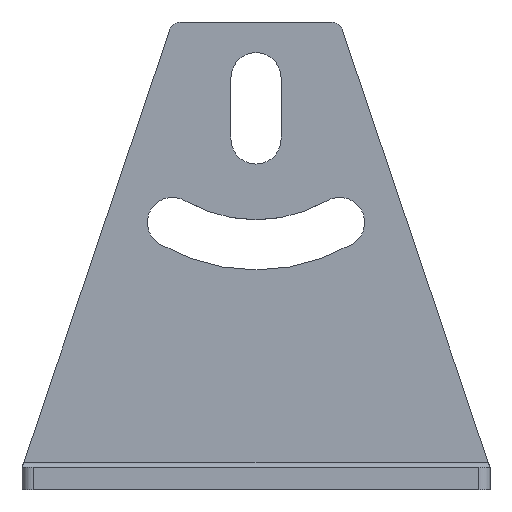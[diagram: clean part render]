
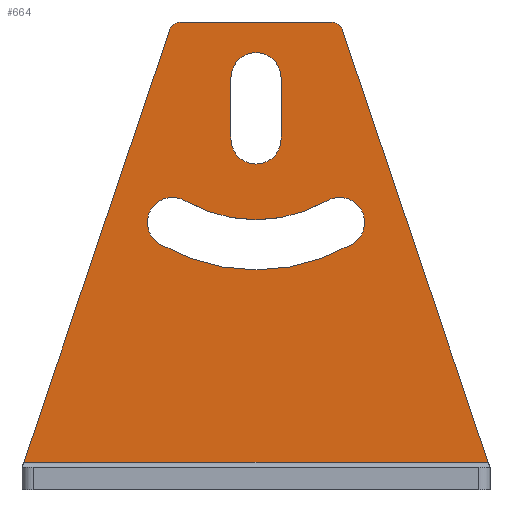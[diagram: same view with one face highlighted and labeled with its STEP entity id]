
A CAD part, top view. The second image highlights one B-rep face of the part: STEP entity #664.
In plain terms, the highlighted planar face has unit normal (0, 0, 1).
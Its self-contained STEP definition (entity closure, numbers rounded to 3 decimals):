
#2 = CARTESIAN_POINT ( 'NONE',  ( -4.5, 63., 4. ) ) ;
#21 = EDGE_LOOP ( 'NONE', ( #943, #1037, #274, #352, #300, #64 ) ) ;
#34 = VERTEX_POINT ( 'NONE', #616 ) ;
#35 = CARTESIAN_POINT ( 'NONE',  ( -15.459, 82.64, 4. ) ) ;
#38 = DIRECTION ( 'NONE',  ( 0., 0., 1. ) ) ;
#39 = EDGE_CURVE ( 'NONE', #756, #130, #1024, .T. ) ;
#46 = CARTESIAN_POINT ( 'NONE',  ( 19.5, 48.019, 4. ) ) ;
#63 = EDGE_CURVE ( 'NONE', #982, #452, #210, .T. ) ;
#64 = ORIENTED_EDGE ( 'NONE', *, *, #129, .F. ) ;
#66 = DIRECTION ( 'NONE',  ( 0., 0., 1. ) ) ;
#73 = VERTEX_POINT ( 'NONE', #46 ) ;
#75 = VECTOR ( 'NONE', #1023, 1000. ) ;
#86 = VERTEX_POINT ( 'NONE', #917 ) ;
#119 = ORIENTED_EDGE ( 'NONE', *, *, #252, .F. ) ;
#129 = EDGE_CURVE ( 'NONE', #246, #756, #557, .T. ) ;
#130 = VERTEX_POINT ( 'NONE', #35 ) ;
#131 = VECTOR ( 'NONE', #527, 1000. ) ;
#138 = LINE ( 'NONE', #721, #192 ) ;
#143 = CARTESIAN_POINT ( 'NONE',  ( -13.564, 84., 4. ) ) ;
#145 = CARTESIAN_POINT ( 'NONE',  ( 15., 48.019, 4. ) ) ;
#147 = DIRECTION ( 'NONE',  ( -1., 0., 0. ) ) ;
#152 = CIRCLE ( 'NONE', #803, 4.5 ) ;
#153 = DIRECTION ( 'NONE',  ( 0., 1., 0. ) ) ;
#158 = DIRECTION ( 'NONE',  ( 1., 0., 0. ) ) ;
#165 = EDGE_CURVE ( 'NONE', #200, #246, #679, .T. ) ;
#178 = EDGE_CURVE ( 'NONE', #452, #319, #286, .T. ) ;
#188 = DIRECTION ( 'NONE',  ( 0., 0., 1. ) ) ;
#192 = VECTOR ( 'NONE', #153, 1000. ) ;
#200 = VERTEX_POINT ( 'NONE', #635 ) ;
#203 = CARTESIAN_POINT ( 'NONE',  ( 42., 5., 4. ) ) ;
#209 = CARTESIAN_POINT ( 'NONE',  ( 43.212, 0.409, 4. ) ) ;
#210 = CIRCLE ( 'NONE', #512, 4.5 ) ;
#211 = PLANE ( 'NONE',  #385 ) ;
#221 = CARTESIAN_POINT ( 'NONE',  ( 4.5, 63., 4. ) ) ;
#228 = CARTESIAN_POINT ( 'NONE',  ( -41.662, 5., 4. ) ) ;
#229 = FACE_OUTER_BOUND ( 'NONE', #21, .T. ) ;
#230 = CARTESIAN_POINT ( 'NONE',  ( 17.25, 44.122, 4. ) ) ;
#233 = VERTEX_POINT ( 'NONE', #221 ) ;
#240 = EDGE_CURVE ( 'NONE', #319, #233, #854, .T. ) ;
#246 = VERTEX_POINT ( 'NONE', #869 ) ;
#252 = EDGE_CURVE ( 'NONE', #73, #86, #670, .T. ) ;
#260 = CARTESIAN_POINT ( 'NONE',  ( -12.75, 51.916, 4. ) ) ;
#273 = AXIS2_PLACEMENT_3D ( 'NONE', #979, #593, #892 ) ;
#274 = ORIENTED_EDGE ( 'NONE', *, *, #826, .T. ) ;
#282 = CARTESIAN_POINT ( 'NONE',  ( 0., 74., 4. ) ) ;
#286 = LINE ( 'NONE', #460, #75 ) ;
#287 = ORIENTED_EDGE ( 'NONE', *, *, #802, .F. ) ;
#291 = CARTESIAN_POINT ( 'NONE',  ( 42., 0., 4. ) ) ;
#300 = ORIENTED_EDGE ( 'NONE', *, *, #39, .F. ) ;
#309 = EDGE_LOOP ( 'NONE', ( #1028, #287, #361, #415 ) ) ;
#314 = CARTESIAN_POINT ( 'NONE',  ( 42., 84., 4. ) ) ;
#319 = VERTEX_POINT ( 'NONE', #2 ) ;
#329 = AXIS2_PLACEMENT_3D ( 'NONE', #432, #517, #841 ) ;
#338 = VECTOR ( 'NONE', #1007, 1000. ) ;
#339 = CARTESIAN_POINT ( 'NONE',  ( 4.5, 74., 4. ) ) ;
#340 = CARTESIAN_POINT ( 'NONE',  ( 0., 74., 4. ) ) ;
#348 = ORIENTED_EDGE ( 'NONE', *, *, #459, .F. ) ;
#352 = ORIENTED_EDGE ( 'NONE', *, *, #404, .T. ) ;
#361 = ORIENTED_EDGE ( 'NONE', *, *, #240, .F. ) ;
#367 = DIRECTION ( 'NONE',  ( -1., 0., 0. ) ) ;
#385 = AXIS2_PLACEMENT_3D ( 'NONE', #291, #863, #939 ) ;
#387 = AXIS2_PLACEMENT_3D ( 'NONE', #767, #188, #611 ) ;
#389 = DIRECTION ( 'NONE',  ( 0., 0., 1. ) ) ;
#404 = EDGE_CURVE ( 'NONE', #778, #130, #796, .T. ) ;
#415 = ORIENTED_EDGE ( 'NONE', *, *, #178, .F. ) ;
#425 = DIRECTION ( 'NONE',  ( 1., 0., 0. ) ) ;
#432 = CARTESIAN_POINT ( 'NONE',  ( 0., 74., 4. ) ) ;
#452 = VERTEX_POINT ( 'NONE', #503 ) ;
#459 = EDGE_CURVE ( 'NONE', #86, #482, #514, .T. ) ;
#460 = CARTESIAN_POINT ( 'NONE',  ( -4.5, 74., 4. ) ) ;
#472 = EDGE_CURVE ( 'NONE', #34, #861, #552, .T. ) ;
#474 = CARTESIAN_POINT ( 'NONE',  ( 15., 48.019, 4. ) ) ;
#482 = VERTEX_POINT ( 'NONE', #260 ) ;
#503 = CARTESIAN_POINT ( 'NONE',  ( -4.5, 74., 4. ) ) ;
#512 = AXIS2_PLACEMENT_3D ( 'NONE', #282, #38, #617 ) ;
#514 = CIRCLE ( 'NONE', #518, 25.5 ) ;
#517 = DIRECTION ( 'NONE',  ( 0., 0., 1. ) ) ;
#518 = AXIS2_PLACEMENT_3D ( 'NONE', #340, #904, #425 ) ;
#527 = DIRECTION ( 'NONE',  ( 0.32, 0.947, 0. ) ) ;
#548 = CARTESIAN_POINT ( 'NONE',  ( 13.564, 82., 4. ) ) ;
#552 = CIRCLE ( 'NONE', #329, 34.5 ) ;
#557 = LINE ( 'NONE', #203, #765 ) ;
#558 = DIRECTION ( 'NONE',  ( 1., 0., 0. ) ) ;
#563 = EDGE_CURVE ( 'NONE', #482, #34, #1019, .T. ) ;
#567 = ORIENTED_EDGE ( 'NONE', *, *, #779, .F. ) ;
#568 = ORIENTED_EDGE ( 'NONE', *, *, #563, .F. ) ;
#577 = FACE_BOUND ( 'NONE', #682, .T. ) ;
#593 = DIRECTION ( 'NONE',  ( 0., 0., 1. ) ) ;
#611 = DIRECTION ( 'NONE',  ( 1., 0., 0. ) ) ;
#616 = CARTESIAN_POINT ( 'NONE',  ( -17.25, 44.122, 4. ) ) ;
#617 = DIRECTION ( 'NONE',  ( 1., 0., 0. ) ) ;
#619 = CARTESIAN_POINT ( 'NONE',  ( 13.564, 84., 4. ) ) ;
#626 = VERTEX_POINT ( 'NONE', #619 ) ;
#629 = ORIENTED_EDGE ( 'NONE', *, *, #472, .F. ) ;
#635 = CARTESIAN_POINT ( 'NONE',  ( 15.459, 82.64, 4. ) ) ;
#663 = AXIS2_PLACEMENT_3D ( 'NONE', #145, #804, #158 ) ;
#664 = ADVANCED_FACE ( 'NONE', ( #577, #975, #229 ), #211, .T. ) ;
#670 = CIRCLE ( 'NONE', #663, 4.5 ) ;
#679 = LINE ( 'NONE', #209, #338 ) ;
#682 = EDGE_LOOP ( 'NONE', ( #568, #348, #119, #567, #629 ) ) ;
#721 = CARTESIAN_POINT ( 'NONE',  ( 4.5, 74., 4. ) ) ;
#750 = EDGE_CURVE ( 'NONE', #200, #626, #811, .T. ) ;
#751 = AXIS2_PLACEMENT_3D ( 'NONE', #937, #389, #952 ) ;
#756 = VERTEX_POINT ( 'NONE', #228 ) ;
#765 = VECTOR ( 'NONE', #367, 1000. ) ;
#767 = CARTESIAN_POINT ( 'NONE',  ( -15., 48.019, 4. ) ) ;
#778 = VERTEX_POINT ( 'NONE', #143 ) ;
#779 = EDGE_CURVE ( 'NONE', #861, #73, #152, .T. ) ;
#786 = LINE ( 'NONE', #314, #964 ) ;
#796 = CIRCLE ( 'NONE', #273, 2. ) ;
#797 = DIRECTION ( 'NONE',  ( 1., 0., 0. ) ) ;
#802 = EDGE_CURVE ( 'NONE', #233, #982, #138, .T. ) ;
#803 = AXIS2_PLACEMENT_3D ( 'NONE', #474, #1038, #558 ) ;
#804 = DIRECTION ( 'NONE',  ( 0., 0., 1. ) ) ;
#811 = CIRCLE ( 'NONE', #837, 2. ) ;
#826 = EDGE_CURVE ( 'NONE', #626, #778, #786, .T. ) ;
#837 = AXIS2_PLACEMENT_3D ( 'NONE', #548, #66, #797 ) ;
#841 = DIRECTION ( 'NONE',  ( 1., 0., 0. ) ) ;
#847 = CARTESIAN_POINT ( 'NONE',  ( -34.622, 25.86, 4. ) ) ;
#854 = CIRCLE ( 'NONE', #751, 4.5 ) ;
#861 = VERTEX_POINT ( 'NONE', #230 ) ;
#863 = DIRECTION ( 'NONE',  ( 0., 0., 1. ) ) ;
#869 = CARTESIAN_POINT ( 'NONE',  ( 41.663, 5., 4. ) ) ;
#892 = DIRECTION ( 'NONE',  ( 1., 0., 0. ) ) ;
#904 = DIRECTION ( 'NONE',  ( 0., 0., -1. ) ) ;
#917 = CARTESIAN_POINT ( 'NONE',  ( 12.75, 51.916, 4. ) ) ;
#937 = CARTESIAN_POINT ( 'NONE',  ( 0., 63., 4. ) ) ;
#939 = DIRECTION ( 'NONE',  ( 1., 0., 0. ) ) ;
#943 = ORIENTED_EDGE ( 'NONE', *, *, #165, .F. ) ;
#952 = DIRECTION ( 'NONE',  ( 1., 0., 0. ) ) ;
#964 = VECTOR ( 'NONE', #147, 1000. ) ;
#975 = FACE_BOUND ( 'NONE', #309, .T. ) ;
#979 = CARTESIAN_POINT ( 'NONE',  ( -13.564, 82., 4. ) ) ;
#982 = VERTEX_POINT ( 'NONE', #339 ) ;
#1007 = DIRECTION ( 'NONE',  ( 0.32, -0.947, 0. ) ) ;
#1019 = CIRCLE ( 'NONE', #387, 4.5 ) ;
#1023 = DIRECTION ( 'NONE',  ( 0., -1., 0. ) ) ;
#1024 = LINE ( 'NONE', #847, #131 ) ;
#1028 = ORIENTED_EDGE ( 'NONE', *, *, #63, .F. ) ;
#1037 = ORIENTED_EDGE ( 'NONE', *, *, #750, .T. ) ;
#1038 = DIRECTION ( 'NONE',  ( 0., 0., 1. ) ) ;
